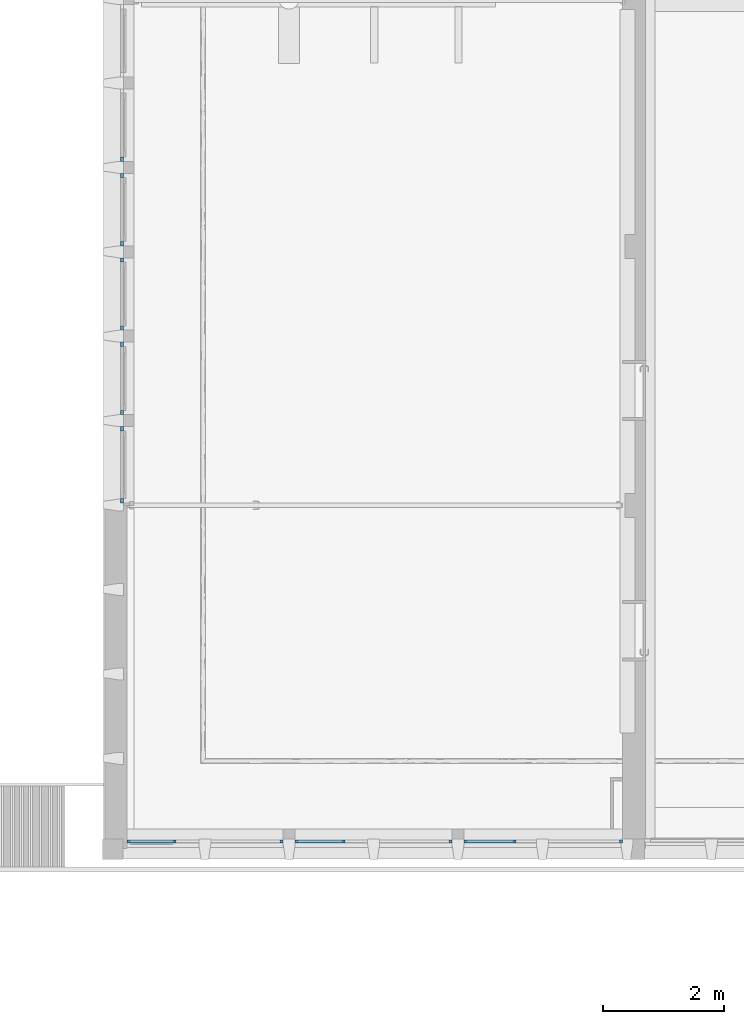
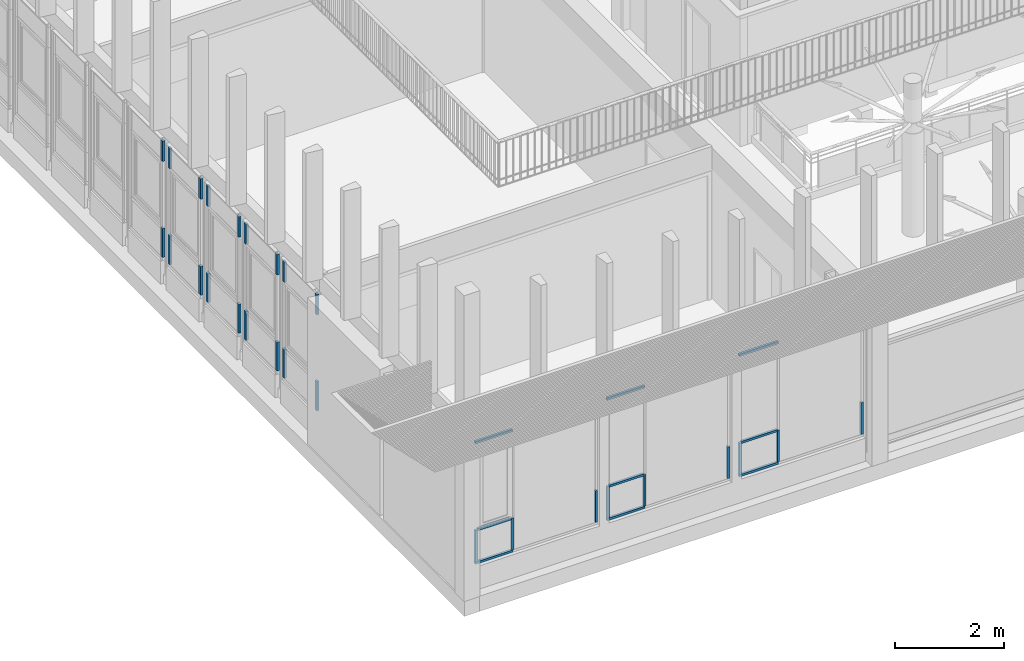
# One storey, part 11 of 65: 36 members, 8 elements without a shape of their own.
"""IFC4 building model written with IfcOpenShell, lengths in metres."""

import ifcopenshell
import ifcopenshell.guid

model = None  # the IFC model being written
_history = None  # IfcOwnerHistory: only IFC2X3 demands one
_inside = {}  # id of a spatial element -> (the spatial element, [elements in it])
_under = {}  # id of a project, library or spatial element -> (it, [spatial elements below it])
_declared = {}  # id of a project -> (the project, [libraries it declares])
_typed = {}  # id of a type object -> (the type object, [elements of that type])
_made_of = {}  # id of a material, layer set ... -> (it, [elements and type objects made of it])


def new_model(schema):
    """Start an empty IFC model of exactly this schema.

    Asked for "IFC4X3", IfcOpenShell would pick the latest addendum, in which some entities
    have other attributes; the version numbers below select the first issue.
    IFC2X3 requires an IfcOwnerHistory on every rooted entity: one is made here for all.
    """
    global model, _history
    if schema == "IFC4X3":
        model = ifcopenshell.file(schema_version=(4, 3, 0, 0))
    else:
        model = ifcopenshell.file(schema=schema)
    _inside.clear()
    _under.clear()
    _declared.clear()
    _typed.clear()
    _made_of.clear()
    _history = None
    if model.schema == "IFC2X3":
        org = make("IfcOrganization", Name="unknown")
        user = make(
            "IfcPersonAndOrganization",
            ThePerson=make("IfcPerson", FamilyName="unknown"),
            TheOrganization=org,
        )
        app = make(
            "IfcApplication",
            ApplicationDeveloper=org,
            Version="unknown",
            ApplicationFullName="unknown",
            ApplicationIdentifier="unknown",
        )
        _history = make(
            "IfcOwnerHistory",
            OwningUser=user,
            OwningApplication=app,
            ChangeAction="ADDED",
            CreationDate=0,
        )
    return model


def make(cls, **values):
    """One entity of the class cls with the attributes given. An attribute that is None is left unset."""
    return model.create_entity(
        cls, **{name: value for name, value in values.items() if value is not None}
    )


def entity(cls, *values):
    """Any entity or typed value of the class cls, its attributes in the order of the schema. None: left unset."""
    e = model.create_entity(cls)
    for i, value in enumerate(values):
        if value is not None:
            e[i] = value
    return e


def rooted(cls, **values):
    """An entity with a GlobalId (a new one), such as an element, a storey or a relation."""
    return make(cls, GlobalId=ifcopenshell.guid.new(), OwnerHistory=_history, **values)


def si_unit(unit_type, name, prefix=None):
    """IfcSIUnit, for example si_unit("LENGTHUNIT", "METRE", prefix="MILLI")."""
    return make("IfcSIUnit", UnitType=unit_type, Prefix=prefix, Name=name)


def converted_unit(unit_type, name, factor, base, dimensions=None, offset=None):
    """IfcConversionBasedUnit, such as the inch: factor (a typed value) times the base unit."""
    return make(
        "IfcConversionBasedUnit"
        if offset is None
        else "IfcConversionBasedUnitWithOffset",
        ConversionOffset=offset,
        Dimensions=None
        if dimensions is None
        else entity("IfcDimensionalExponents", *dimensions),
        UnitType=unit_type,
        Name=name,
        ConversionFactor=make(
            "IfcMeasureWithUnit", ValueComponent=factor, UnitComponent=base
        ),
    )


def derived_unit(unit_type, elements):
    """IfcDerivedUnit: a product of units, each with its exponent."""
    return make(
        "IfcDerivedUnit",
        Elements=[
            make("IfcDerivedUnitElement", Unit=unit, Exponent=power)
            for unit, power in elements
        ],
        UnitType=unit_type,
    )


def assignment(units):
    """IfcUnitAssignment: the units of a project."""
    return None if units is None else make("IfcUnitAssignment", Units=units)


def point(xyz):
    """IfcCartesianPoint."""
    return None if xyz is None else make("IfcCartesianPoint", Coordinates=xyz)


def direction(xyz):
    """IfcDirection."""
    return None if xyz is None else make("IfcDirection", DirectionRatios=xyz)


def frame(location, z_axis=None, x_axis=None):
    """IfcAxis2Placement3D, a coordinate frame: its origin and axes. An axis left out is left unset."""
    return make(
        "IfcAxis2Placement3D",
        Location=point(location),
        Axis=direction(z_axis),
        RefDirection=direction(x_axis),
    )


def origin():
    """The frame at (0, 0, 0) with its axes left unset."""
    return frame((0.0, 0.0, 0.0))


def place(relative_to, where):
    """IfcLocalPlacement: puts the frame where relative to a parent placement (None: the world)."""
    return make(
        "IfcLocalPlacement", PlacementRelTo=relative_to, RelativePlacement=where
    )


def context(
    kind, dimensions, precision=None, world=None, true_north=None, identifier=None
):
    """IfcGeometricRepresentationContext, for example the 3D "Model" context."""
    return make(
        "IfcGeometricRepresentationContext",
        ContextIdentifier=identifier,
        ContextType=kind,
        CoordinateSpaceDimension=dimensions,
        Precision=precision,
        WorldCoordinateSystem=world,
        TrueNorth=true_north,
    )


def subcontext(parent, identifier, kind, view, scale=None):
    """IfcGeometricRepresentationSubContext, for example "Body" below "Model"."""
    return make(
        "IfcGeometricRepresentationSubContext",
        ContextIdentifier=identifier,
        ContextType=kind,
        ParentContext=parent,
        TargetScale=scale,
        TargetView=view,
    )


def project(units=None, contexts=None):
    """IfcProject with its units and contexts."""
    return rooted(
        "IfcProject",
        Name="project",
        RepresentationContexts=contexts,
        UnitsInContext=assignment(units),
    )


def spatial(cls, under=None, at=None, **own):
    """A site, building, storey or space (cls), placed at a placement, below another one or the project."""
    s = rooted(cls, ObjectPlacement=at, **own)
    if under is not None:
        _under.setdefault(under.id(), (under, []))[1].append(s)
    return s


def point_list(points):
    """IfcCartesianPointList2D or 3D."""
    cls = (
        "IfcCartesianPointList2D" if len(points[0]) == 2 else "IfcCartesianPointList3D"
    )
    return make(cls, CoordList=points)


def indexed_curve(points, segments=None, self_intersect=None):
    """IfcIndexedPolyCurve: lines and arcs through numbered points (the first is 1)."""
    return make(
        "IfcIndexedPolyCurve",
        Points=point_list(points),
        Segments=segments,
        SelfIntersect=self_intersect,
    )


def outline(outer, holes=None, kind="AREA"):
    """IfcArbitraryClosedProfileDef: a profile drawn as a closed curve; with holes, ...WithVoids."""
    if holes is None:
        return make("IfcArbitraryClosedProfileDef", ProfileType=kind, OuterCurve=outer)
    return make(
        "IfcArbitraryProfileDefWithVoids",
        ProfileType=kind,
        OuterCurve=outer,
        InnerCurves=holes,
    )


def extrude(swept, where, along, depth):
    """IfcExtrudedAreaSolid: the profile swept, set in the frame where, extruded along a direction by depth."""
    return make(
        "IfcExtrudedAreaSolid",
        SweptArea=swept,
        Position=where,
        ExtrudedDirection=direction(along),
        Depth=depth,
    )


def shape(context_of_items, identifier, shape_type, items):
    """IfcShapeRepresentation: the items that make up one representation, for example the "Body"."""
    return make(
        "IfcShapeRepresentation",
        ContextOfItems=context_of_items,
        RepresentationIdentifier=identifier,
        RepresentationType=shape_type,
        Items=items,
    )


def source(mapping_origin, context_of_items, identifier, shape_type, items):
    """IfcRepresentationMap: a shape defined once, which mapped items show again and again."""
    return make(
        "IfcRepresentationMap",
        MappingOrigin=mapping_origin,
        MappedRepresentation=shape(context_of_items, identifier, shape_type, items),
    )


def transform(
    local_origin,
    x_axis=None,
    y_axis=None,
    z_axis=None,
    scale=None,
    scale2=None,
    scale3=None,
    uniform=True,
):
    """IfcCartesianTransformationOperator3D, or its non-uniform kind. x_axis, y_axis, z_axis: its Axis1, 2, 3."""
    if uniform:
        return make(
            "IfcCartesianTransformationOperator3D",
            Axis1=direction(x_axis),
            Axis2=direction(y_axis),
            LocalOrigin=point(local_origin),
            Scale=scale,
            Axis3=direction(z_axis),
        )
    return make(
        "IfcCartesianTransformationOperator3DnonUniform",
        Axis1=direction(x_axis),
        Axis2=direction(y_axis),
        LocalOrigin=point(local_origin),
        Scale=scale,
        Axis3=direction(z_axis),
        Scale2=scale2,
        Scale3=scale3,
    )


def mapped(mapping_source, mapping_target):
    """IfcMappedItem: shows the shape of a source again, moved by a transform."""
    return make(
        "IfcMappedItem", MappingSource=mapping_source, MappingTarget=mapping_target
    )


def material(Name=None, Category=None):
    """IfcMaterial."""
    return make("IfcMaterial", Name=Name, Category=Category)


def made_of(thing, what):
    """Note that an element or type object is made of a material, layer set ...; save() writes the relation."""
    if what is not None:
        _made_of.setdefault(what.id(), (what, []))[1].append(thing)
    return thing


def type_object(cls, material=None, **own):
    """A type object (cls), such as IfcWallType, which elements share."""
    return made_of(rooted(cls, **own), material)


def type_shapes(of_type, sources):
    """Give a type object the sources (RepresentationMaps) that its elements show as mapped items."""
    of_type.RepresentationMaps = sources


def element(
    cls,
    number,
    at=None,
    inside=None,
    cuts=None,
    type_object=None,
    material=None,
    context=None,
    identifier="Body",
    shape_type=None,
    held_by="IfcProductDefinitionShape",
    body=None,
    shapes=None,
    **own,
):
    """One element of the class cls, such as IfcWall. Its Tag is "e" and its number.

    at: its placement. inside: the storey or other place that contains it. cuts: it is an
    opening in that element (IfcRelVoidsElement). A single representation is given by context,
    identifier, shape_type and body (its items); several are given by shapes. held_by: the class
    of the entity that holds the representations. save() writes the other relations.
    """
    e = rooted(cls, Tag="e%d" % number, ObjectPlacement=at, **own)
    if body is not None:
        shapes = [shape(context, identifier, shape_type, body)]
    if shapes is not None:
        e.Representation = make(held_by, Representations=shapes)
    if inside is not None:
        _inside.setdefault(inside.id(), (inside, []))[1].append(e)
    if cuts is not None:
        rooted(
            "IfcRelVoidsElement", RelatingBuildingElement=cuts, RelatedOpeningElement=e
        )
    if type_object is not None:
        _typed.setdefault(type_object.id(), (type_object, []))[1].append(e)
    return made_of(e, material)


def aggregate(whole, parts):
    """IfcRelAggregates: a whole, such as a stair, and the parts it consists of."""
    return rooted("IfcRelAggregates", RelatingObject=whole, RelatedObjects=parts)


def save(model, path):
    """Write the relations noted so far, then the file.

    IfcRelAggregates (storeys below a building ...), IfcRelContainedInSpatialStructure (elements
    in a storey), IfcRelDefinesByType, IfcRelAssociatesMaterial and IfcRelDeclares: one each for
    every whole, place, type object, material and project.
    """
    for whole, parts in _under.values():
        aggregate(whole, parts)
    for where, things in _inside.values():
        rooted(
            "IfcRelContainedInSpatialStructure",
            RelatedElements=things,
            RelatingStructure=where,
        )
    for kind, things in _typed.values():
        rooted("IfcRelDefinesByType", RelatedObjects=things, RelatingType=kind)
    for what, things in _made_of.values():
        rooted("IfcRelAssociatesMaterial", RelatedObjects=things, RelatingMaterial=what)
    for by, libraries in _declared.values():
        rooted("IfcRelDeclares", RelatingContext=by, RelatedDefinitions=libraries)
    model.write(path)


model = new_model("IFC4")

# Units and contexts
model_context = context("Model", 3, precision=1e-05, world=origin(), true_north=direction((6.12303176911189e-17, 1.0)))
body_context = subcontext(model_context, "Body", "Model", "MODEL_VIEW")
ifc_project = project(units=[si_unit("LENGTHUNIT", "METRE"), si_unit("AREAUNIT", "SQUARE_METRE"), si_unit("VOLUMEUNIT", "CUBIC_METRE"), converted_unit("PLANEANGLEUNIT", "DEGREE", entity("IfcRatioMeasure", 0.0174532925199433), si_unit("PLANEANGLEUNIT", "RADIAN"), dimensions=[0, 0, 0, 0, 0, 0, 0]), si_unit("MASSUNIT", "GRAM", prefix="KILO"), derived_unit("MASSDENSITYUNIT", [(si_unit("MASSUNIT", "GRAM", prefix="KILO"), 1), (si_unit("LENGTHUNIT", "METRE"), -3)]), derived_unit("MOMENTOFINERTIAUNIT", [(si_unit("LENGTHUNIT", "METRE"), 4)]), si_unit("TIMEUNIT", "SECOND"), si_unit("FREQUENCYUNIT", "HERTZ"), si_unit("THERMODYNAMICTEMPERATUREUNIT", "DEGREE_CELSIUS"), derived_unit("THERMALTRANSMITTANCEUNIT", [(si_unit("MASSUNIT", "GRAM", prefix="KILO"), 1), (si_unit("THERMODYNAMICTEMPERATUREUNIT", "KELVIN"), -1), (si_unit("TIMEUNIT", "SECOND"), -3)]), derived_unit("VOLUMETRICFLOWRATEUNIT", [(si_unit("LENGTHUNIT", "METRE"), 3), (si_unit("TIMEUNIT", "SECOND"), -1)]), si_unit("ELECTRICCURRENTUNIT", "AMPERE"), si_unit("ELECTRICVOLTAGEUNIT", "VOLT"), si_unit("POWERUNIT", "WATT"), si_unit("FORCEUNIT", "NEWTON", prefix="KILO"), si_unit("ILLUMINANCEUNIT", "LUX"), si_unit("LUMINOUSFLUXUNIT", "LUMEN"), si_unit("LUMINOUSINTENSITYUNIT", "CANDELA"), derived_unit("USERDEFINED", [(si_unit("MASSUNIT", "GRAM", prefix="KILO"), -1), (si_unit("LENGTHUNIT", "METRE"), -2), (si_unit("TIMEUNIT", "SECOND"), 3), (si_unit("LUMINOUSFLUXUNIT", "LUMEN"), 1)]), derived_unit("LINEARVELOCITYUNIT", [(si_unit("LENGTHUNIT", "METRE"), 1), (si_unit("TIMEUNIT", "SECOND"), -1)]), si_unit("PRESSUREUNIT", "PASCAL"), derived_unit("USERDEFINED", [(si_unit("LENGTHUNIT", "METRE"), -2), (si_unit("MASSUNIT", "GRAM", prefix="KILO"), 1), (si_unit("TIMEUNIT", "SECOND"), -2)]), derived_unit("LINEARFORCEUNIT", [(si_unit("MASSUNIT", "GRAM", prefix="KILO"), 1), (si_unit("LENGTHUNIT", "METRE"), 1), (si_unit("TIMEUNIT", "SECOND"), -2), (si_unit("LENGTHUNIT", "METRE"), -1)]), derived_unit("PLANARFORCEUNIT", [(si_unit("MASSUNIT", "GRAM", prefix="KILO"), 1), (si_unit("LENGTHUNIT", "METRE"), 1), (si_unit("TIMEUNIT", "SECOND"), -2), (si_unit("LENGTHUNIT", "METRE"), -2)])], contexts=[model_context])

# Site, building, storey
site_placement = place(None, origin())
site = spatial("IfcSite", under=ifc_project, at=site_placement, Name="Default", CompositionType="ELEMENT")
building_placement = place(site_placement, origin())
building = spatial("IfcBuilding", under=site, at=building_placement, Name="HOTEL CONSULAIRE BOULOGNE SUR MER", CompositionType="ELEMENT")
storey_placement = place(building_placement, origin())
storey = spatial("IfcBuildingStorey", under=building, at=storey_placement, Name="Niveau 0", CompositionType="ELEMENT", Elevation=1.31981936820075e-13)

# Curtain wall, member
curtain_wall_type = type_object("IfcCurtainWallType", Name="Mur-rideau:Simple panneau", PredefinedType="NOTDEFINED")
curtain_wall_1_placement = place(storey_placement, origin())
curtain_wall_1 = element("IfcCurtainWall", 1, at=curtain_wall_1_placement, inside=storey, type_object=curtain_wall_type, Name="Mur-rideau:Simple panneau", ObjectType="Mur-rideau:Simple panneau", PredefinedType="NOTDEFINED")
ifc_material = material(Name="PVC - Blanc", Category="Plastique")
member_type_1 = type_object("IfcMemberType", Name="Meneau rectangulaire:50 x 35", PredefinedType="MULLION", material=ifc_material)
shared_shape_1 = source(origin(), body_context, "Body", "SweptSolid", [
    extrude(outline(indexed_curve([(-0.025, -0.035), (0.025, -0.035), (0.025, 0.035), (-0.025, 0.035), (-0.025, -0.035)], self_intersect=False)), frame((-0.035, -0.025, -0.458999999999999), z_axis=(0.0, 0.0, 1.0), x_axis=(0.0, -1.0, 0.0)), (0.0, 0.0, 1.0), 0.458999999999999),
])
type_shapes(member_type_1, [shared_shape_1])
member_1_placement = place(storey_placement, frame((-13.7900998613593, -23.9750508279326, 2.96999999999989), z_axis=(0.0, 0.0, 1.0), x_axis=(0.0, -1.0, 0.0)))
member_1 = element("IfcMember", 2, at=member_1_placement, type_object=member_type_1, material=ifc_material, Name="Meneau rectangulaire:50 x 35", ObjectType="Meneau rectangulaire:50 x 35", PredefinedType="MULLION", context=body_context, shape_type="MappedRepresentation", body=[
    mapped(shared_shape_1, transform((0.0, 0.0, 0.0), scale=1.0)),
])

curtain_wall_2_placement = place(storey_placement, origin())
curtain_wall_2 = element("IfcCurtainWall", 3, at=curtain_wall_2_placement, inside=storey, type_object=curtain_wall_type, Name="Mur-rideau:Simple panneau", ObjectType="Mur-rideau:Simple panneau", PredefinedType="NOTDEFINED")
member_2_placement = place(storey_placement, frame((-13.7900998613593, -22.5114499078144, 2.96999999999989), z_axis=(0.0, 0.0, 1.0), x_axis=(0.0, -1.0, 0.0)))
member_2 = element("IfcMember", 4, at=member_2_placement, type_object=member_type_1, material=ifc_material, Name="Meneau rectangulaire:50 x 35", ObjectType="Meneau rectangulaire:50 x 35", PredefinedType="MULLION", context=body_context, shape_type="MappedRepresentation", body=[
    mapped(shared_shape_1, transform((0.0, 0.0, 0.0), scale=1.0)),
])

curtain_wall_3_placement = place(storey_placement, origin())
curtain_wall_3 = element("IfcCurtainWall", 5, at=curtain_wall_3_placement, inside=storey, type_object=curtain_wall_type, Name="Mur-rideau:Simple panneau", ObjectType="Mur-rideau:Simple panneau", PredefinedType="NOTDEFINED")
member_3_placement = place(storey_placement, frame((-13.7900998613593, -21.1114499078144, 2.96999999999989), z_axis=(0.0, 0.0, 1.0), x_axis=(0.0, -1.0, 0.0)))
member_3 = element("IfcMember", 6, at=member_3_placement, type_object=member_type_1, material=ifc_material, Name="Meneau rectangulaire:50 x 35", ObjectType="Meneau rectangulaire:50 x 35", PredefinedType="MULLION", context=body_context, shape_type="MappedRepresentation", body=[
    mapped(shared_shape_1, transform((0.0, 0.0, 0.0), scale=1.0)),
])

curtain_wall_4_placement = place(storey_placement, origin())
curtain_wall_4 = element("IfcCurtainWall", 7, at=curtain_wall_4_placement, inside=storey, type_object=curtain_wall_type, Name="Mur-rideau:Simple panneau", ObjectType="Mur-rideau:Simple panneau", PredefinedType="NOTDEFINED")
member_4_placement = place(storey_placement, frame((-13.7900998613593, -19.7114499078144, 2.96999999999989), z_axis=(0.0, 0.0, 1.0), x_axis=(0.0, -1.0, 0.0)))
member_4 = element("IfcMember", 8, at=member_4_placement, type_object=member_type_1, material=ifc_material, Name="Meneau rectangulaire:50 x 35", ObjectType="Meneau rectangulaire:50 x 35", PredefinedType="MULLION", context=body_context, shape_type="MappedRepresentation", body=[
    mapped(shared_shape_1, transform((0.0, 0.0, 0.0), scale=1.0)),
])

curtain_wall_5_placement = place(storey_placement, origin())
curtain_wall_5 = element("IfcCurtainWall", 9, at=curtain_wall_5_placement, inside=storey, type_object=curtain_wall_type, Name="Mur-rideau:Simple panneau", ObjectType="Mur-rideau:Simple panneau", PredefinedType="NOTDEFINED")
member_5_placement = place(storey_placement, frame((-13.7900998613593, -18.3114499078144, 2.96999999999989), z_axis=(0.0, 0.0, 1.0), x_axis=(0.0, -1.0, 0.0)))
member_5 = element("IfcMember", 10, at=member_5_placement, type_object=member_type_1, material=ifc_material, Name="Meneau rectangulaire:50 x 35", ObjectType="Meneau rectangulaire:50 x 35", PredefinedType="MULLION", context=body_context, shape_type="MappedRepresentation", body=[
    mapped(shared_shape_1, transform((0.0, 0.0, 0.0), scale=1.0)),
])

# Member
member_type_2 = type_object("IfcMemberType", Name="Meneau rectangulaire:50 x 35", PredefinedType="MULLION", material=ifc_material)
shared_shape_2 = source(origin(), body_context, "Body", "SweptSolid", [
    extrude(outline(indexed_curve([(-0.025, -0.035), (0.025, -0.035), (0.025, 0.035), (-0.025, 0.035), (-0.025, -0.035)], self_intersect=False)), frame((-0.035, -0.025, -0.647), z_axis=(0.0, 0.0, 1.0), x_axis=(0.0, -1.0, 0.0)), (0.0, 0.0, 1.0), 0.647),
])
type_shapes(member_type_2, [shared_shape_2])
member_6_placement = place(storey_placement, frame((-13.7900998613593, -22.7114499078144, 0.359999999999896), z_axis=(0.0, 0.0, -1.0), x_axis=(0.0, 1.0, 0.0)))
member_6 = element("IfcMember", 11, at=member_6_placement, type_object=member_type_2, material=ifc_material, Name="Meneau rectangulaire:50 x 35", ObjectType="Meneau rectangulaire:50 x 35", PredefinedType="MULLION", context=body_context, shape_type="MappedRepresentation", body=[
    mapped(shared_shape_2, transform((0.0, 0.0, 0.0), scale=1.0)),
])

member_7_placement = place(storey_placement, frame((-13.7900998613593, -21.3114499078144, 0.359999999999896), z_axis=(0.0, 0.0, -1.0), x_axis=(0.0, 1.0, 0.0)))
member_7 = element("IfcMember", 12, at=member_7_placement, type_object=member_type_2, material=ifc_material, Name="Meneau rectangulaire:50 x 35", ObjectType="Meneau rectangulaire:50 x 35", PredefinedType="MULLION", context=body_context, shape_type="MappedRepresentation", body=[
    mapped(shared_shape_2, transform((0.0, 0.0, 0.0), scale=1.0)),
])

member_8_placement = place(storey_placement, frame((-13.7900998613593, -19.9114499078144, 0.359999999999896), z_axis=(0.0, 0.0, -1.0), x_axis=(0.0, 1.0, 0.0)))
member_8 = element("IfcMember", 13, at=member_8_placement, type_object=member_type_2, material=ifc_material, Name="Meneau rectangulaire:50 x 35", ObjectType="Meneau rectangulaire:50 x 35", PredefinedType="MULLION", context=body_context, shape_type="MappedRepresentation", body=[
    mapped(shared_shape_2, transform((0.0, 0.0, 0.0), scale=1.0)),
])

member_9_placement = place(storey_placement, frame((-13.7900998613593, -18.5114499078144, 0.359999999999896), z_axis=(0.0, 0.0, -1.0), x_axis=(0.0, 1.0, 0.0)))
member_9 = element("IfcMember", 14, at=member_9_placement, type_object=member_type_2, material=ifc_material, Name="Meneau rectangulaire:50 x 35", ObjectType="Meneau rectangulaire:50 x 35", PredefinedType="MULLION", context=body_context, shape_type="MappedRepresentation", body=[
    mapped(shared_shape_2, transform((0.0, 0.0, 0.0), scale=1.0)),
])

member_type_3 = type_object("IfcMemberType", Name="Meneau rectangulaire:50 x 35", PredefinedType="MULLION", material=ifc_material)
shared_shape_3 = source(origin(), body_context, "Body", "SweptSolid", [
    extrude(outline(indexed_curve([(-0.025, -0.035), (0.025, -0.035), (0.025, 0.035), (-0.025, 0.035), (-0.025, -0.035)], self_intersect=False)), frame((-0.035, -0.025, -0.458999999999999), z_axis=(0.0, 0.0, 1.0), x_axis=(0.0, -1.0, 0.0)), (0.0, 0.0, 1.0), 0.458999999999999),
])
type_shapes(member_type_3, [shared_shape_3])
member_10_placement = place(storey_placement, frame((-13.7900998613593, -22.7114499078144, 2.5109999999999), z_axis=(0.0, 0.0, -1.0), x_axis=(0.0, 1.0, 0.0)))
member_10 = element("IfcMember", 15, at=member_10_placement, type_object=member_type_3, material=ifc_material, Name="Meneau rectangulaire:50 x 35", ObjectType="Meneau rectangulaire:50 x 35", PredefinedType="MULLION", context=body_context, shape_type="MappedRepresentation", body=[
    mapped(shared_shape_3, transform((0.0, 0.0, 0.0), scale=1.0)),
])

member_11_placement = place(storey_placement, frame((-13.7900998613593, -21.3114499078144, 2.5109999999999), z_axis=(0.0, 0.0, -1.0), x_axis=(0.0, 1.0, 0.0)))
member_11 = element("IfcMember", 16, at=member_11_placement, type_object=member_type_3, material=ifc_material, Name="Meneau rectangulaire:50 x 35", ObjectType="Meneau rectangulaire:50 x 35", PredefinedType="MULLION", context=body_context, shape_type="MappedRepresentation", body=[
    mapped(shared_shape_3, transform((0.0, 0.0, 0.0), scale=1.0)),
])

member_12_placement = place(storey_placement, frame((-13.7900998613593, -19.9114499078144, 2.5109999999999), z_axis=(0.0, 0.0, -1.0), x_axis=(0.0, 1.0, 0.0)))
member_12 = element("IfcMember", 17, at=member_12_placement, type_object=member_type_3, material=ifc_material, Name="Meneau rectangulaire:50 x 35", ObjectType="Meneau rectangulaire:50 x 35", PredefinedType="MULLION", context=body_context, shape_type="MappedRepresentation", body=[
    mapped(shared_shape_3, transform((0.0, 0.0, 0.0), scale=1.0)),
])

member_13_placement = place(storey_placement, frame((-13.7900998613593, -18.5114499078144, 2.5109999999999), z_axis=(0.0, 0.0, -1.0), x_axis=(0.0, 1.0, 0.0)))
member_13 = element("IfcMember", 18, at=member_13_placement, type_object=member_type_3, material=ifc_material, Name="Meneau rectangulaire:50 x 35", ObjectType="Meneau rectangulaire:50 x 35", PredefinedType="MULLION", context=body_context, shape_type="MappedRepresentation", body=[
    mapped(shared_shape_3, transform((0.0, 0.0, 0.0), scale=1.0)),
])

member_type_4 = type_object("IfcMemberType", Name="Meneau rectangulaire:50 x 35", PredefinedType="MULLION", material=ifc_material)
shared_shape_4 = source(origin(), body_context, "Body", "SweptSolid", [
    extrude(outline(indexed_curve([(-0.025, -0.035), (0.025, -0.035), (0.025, 0.035), (-0.025, 0.035), (-0.025, -0.035)], self_intersect=False)), frame((-0.035, -0.025, -0.647), z_axis=(0.0, 0.0, 1.0), x_axis=(0.0, -1.0, 0.0)), (0.0, 0.0, 1.0), 0.647),
])
type_shapes(member_type_4, [shared_shape_4])
member_14_placement = place(storey_placement, frame((-13.7900998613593, -23.9750508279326, 1.0069999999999), z_axis=(0.0, 0.0, 1.0), x_axis=(0.0, -1.0, 0.0)))
member_14 = element("IfcMember", 19, at=member_14_placement, type_object=member_type_4, material=ifc_material, Name="Meneau rectangulaire:50 x 35", ObjectType="Meneau rectangulaire:50 x 35", PredefinedType="MULLION", context=body_context, shape_type="MappedRepresentation", body=[
    mapped(shared_shape_4, transform((0.0, 0.0, 0.0), scale=1.0)),
])

aggregate(curtain_wall_1, [member_1, member_6, member_10, member_14])

member_15_placement = place(storey_placement, frame((-13.7900998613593, -22.5114499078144, 1.0069999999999), z_axis=(0.0, 0.0, 1.0), x_axis=(0.0, -1.0, 0.0)))
member_15 = element("IfcMember", 20, at=member_15_placement, type_object=member_type_4, material=ifc_material, Name="Meneau rectangulaire:50 x 35", ObjectType="Meneau rectangulaire:50 x 35", PredefinedType="MULLION", context=body_context, shape_type="MappedRepresentation", body=[
    mapped(shared_shape_4, transform((0.0, 0.0, 0.0), scale=1.0)),
])

aggregate(curtain_wall_2, [member_2, member_7, member_11, member_15])

member_16_placement = place(storey_placement, frame((-13.7900998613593, -21.1114499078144, 1.0069999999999), z_axis=(0.0, 0.0, 1.0), x_axis=(0.0, -1.0, 0.0)))
member_16 = element("IfcMember", 21, at=member_16_placement, type_object=member_type_4, material=ifc_material, Name="Meneau rectangulaire:50 x 35", ObjectType="Meneau rectangulaire:50 x 35", PredefinedType="MULLION", context=body_context, shape_type="MappedRepresentation", body=[
    mapped(shared_shape_4, transform((0.0, 0.0, 0.0), scale=1.0)),
])

aggregate(curtain_wall_3, [member_3, member_8, member_12, member_16])

member_17_placement = place(storey_placement, frame((-13.7900998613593, -19.7114499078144, 1.0069999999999), z_axis=(0.0, 0.0, 1.0), x_axis=(0.0, -1.0, 0.0)))
member_17 = element("IfcMember", 22, at=member_17_placement, type_object=member_type_4, material=ifc_material, Name="Meneau rectangulaire:50 x 35", ObjectType="Meneau rectangulaire:50 x 35", PredefinedType="MULLION", context=body_context, shape_type="MappedRepresentation", body=[
    mapped(shared_shape_4, transform((0.0, 0.0, 0.0), scale=1.0)),
])

aggregate(curtain_wall_4, [member_4, member_9, member_13, member_17])

member_18_placement = place(storey_placement, frame((-13.7900998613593, -18.3114499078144, 1.0069999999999), z_axis=(0.0, 0.0, 1.0), x_axis=(0.0, -1.0, 0.0)))
member_18 = element("IfcMember", 23, at=member_18_placement, type_object=member_type_4, material=ifc_material, Name="Meneau rectangulaire:50 x 35", ObjectType="Meneau rectangulaire:50 x 35", PredefinedType="MULLION", context=body_context, shape_type="MappedRepresentation", body=[
    mapped(shared_shape_4, transform((0.0, 0.0, 0.0), scale=1.0)),
])

aggregate(curtain_wall_5, [member_5, member_18])

# Curtain wall, member
curtain_wall_6_placement = place(storey_placement, origin())
curtain_wall_6 = element("IfcCurtainWall", 24, at=curtain_wall_6_placement, inside=storey, type_object=curtain_wall_type, Name="Mur-rideau:Simple panneau", ObjectType="Mur-rideau:Simple panneau", PredefinedType="NOTDEFINED")
member_type_5 = type_object("IfcMemberType", Name="Meneau rectangulaire:50 x 25mm", PredefinedType="MULLION", material=ifc_material)
shared_shape_5 = source(origin(), body_context, "Body", "SweptSolid", [
    extrude(outline(indexed_curve([(-0.025, -0.025), (0.025, -0.025), (0.025, 0.025), (-0.025, 0.025), (-0.025, -0.025)], self_intersect=False)), frame((-0.025, -0.025, -0.709), z_axis=(0.0, 0.0, 1.0), x_axis=(0.0, -1.0, 0.0)), (0.0, 0.0, 1.0), 0.709),
])
type_shapes(member_type_5, [shared_shape_5])
member_19_placement = place(storey_placement, frame((-11.1414199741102, -29.6140671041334, 0.349999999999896), z_axis=(0.0, 0.0, -1.0), x_axis=(1.0, 0.0, 0.0)))
member_19 = element("IfcMember", 25, at=member_19_placement, type_object=member_type_5, material=ifc_material, Name="Meneau rectangulaire:50 x 25mm", ObjectType="Meneau rectangulaire:50 x 25mm", PredefinedType="MULLION", context=body_context, shape_type="MappedRepresentation", body=[
    mapped(shared_shape_5, transform((0.0, 0.0, 0.0), scale=1.0)),
])

curtain_wall_7_placement = place(storey_placement, origin())
curtain_wall_7 = element("IfcCurtainWall", 26, at=curtain_wall_7_placement, inside=storey, type_object=curtain_wall_type, Name="Mur-rideau:Simple panneau", ObjectType="Mur-rideau:Simple panneau", PredefinedType="NOTDEFINED")
member_20_placement = place(storey_placement, frame((-5.50977317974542, -29.6140671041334, 0.349999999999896), z_axis=(0.0, 0.0, -1.0), x_axis=(1.0, 0.0, 0.0)))
member_20 = element("IfcMember", 27, at=member_20_placement, type_object=member_type_5, material=ifc_material, Name="Meneau rectangulaire:50 x 25mm", ObjectType="Meneau rectangulaire:50 x 25mm", PredefinedType="MULLION", context=body_context, shape_type="MappedRepresentation", body=[
    mapped(shared_shape_5, transform((0.0, 0.0, 0.0), scale=1.0)),
])

curtain_wall_8_placement = place(storey_placement, origin())
curtain_wall_8 = element("IfcCurtainWall", 28, at=curtain_wall_8_placement, inside=storey, type_object=curtain_wall_type, Name="Mur-rideau:Simple panneau", ObjectType="Mur-rideau:Simple panneau", PredefinedType="NOTDEFINED")
member_21_placement = place(storey_placement, frame((-8.3414199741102, -29.6140671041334, 0.349999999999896), z_axis=(0.0, 0.0, -1.0), x_axis=(1.0, 0.0, 0.0)))
member_21 = element("IfcMember", 29, at=member_21_placement, type_object=member_type_5, material=ifc_material, Name="Meneau rectangulaire:50 x 25mm", ObjectType="Meneau rectangulaire:50 x 25mm", PredefinedType="MULLION", context=body_context, shape_type="MappedRepresentation", body=[
    mapped(shared_shape_5, transform((0.0, 0.0, 0.0), scale=1.0)),
])

# Member
member_type_6 = type_object("IfcMemberType", Name="Meneau rectangulaire:50 x 25mm", PredefinedType="MULLION", material=ifc_material)
shared_shape_6 = source(origin(), body_context, "Body", "SweptSolid", [
    extrude(outline(indexed_curve([(-0.025, -0.025), (0.025, -0.025), (0.025, 0.025), (-0.025, 0.025), (-0.025, -0.025)], self_intersect=False)), frame((-0.025, -0.025, -0.789369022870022), z_axis=(0.0, 0.0, 1.0), x_axis=(0.0, -1.0, 0.0)), (0.0, 0.0, 1.0), 0.789369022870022),
])
type_shapes(member_type_6, [shared_shape_6])
member_22_placement = place(storey_placement, frame((-13.7293496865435, -29.6140671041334, 0.299999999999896), z_axis=(-1.0, 0.0, 0.0), x_axis=(0.0, 0.0, -1.0)))
member_22 = element("IfcMember", 30, at=member_22_placement, type_object=member_type_6, material=ifc_material, Name="Meneau rectangulaire:50 x 25mm", ObjectType="Meneau rectangulaire:50 x 25mm", PredefinedType="MULLION", context=body_context, shape_type="MappedRepresentation", body=[
    mapped(shared_shape_6, transform((0.0, 0.0, 0.0), scale=1.0)),
])

member_type_7 = type_object("IfcMemberType", Name="Meneau rectangulaire:50 x 25mm", PredefinedType="MULLION", material=ifc_material)
shared_shape_7 = source(origin(), body_context, "Body", "SweptSolid", [
    extrude(outline(indexed_curve([(-0.025, -0.025), (0.025, -0.025), (0.025, 0.025), (-0.025, 0.025), (-0.025, -0.025)], self_intersect=False)), frame((0.0, -0.025, -0.709), z_axis=(0.0, 0.0, 1.0), x_axis=(0.0, -1.0, 0.0)), (0.0, 0.0, 1.0), 0.709),
])
type_shapes(member_type_7, [shared_shape_7])
member_23_placement = place(storey_placement, frame((-12.9399806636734, -29.6140671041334, 0.349999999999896), z_axis=(0.0, 0.0, -1.0), x_axis=(1.0, 0.0, 0.0)))
member_23 = element("IfcMember", 31, at=member_23_placement, type_object=member_type_7, material=ifc_material, Name="Meneau rectangulaire:50 x 25mm", ObjectType="Meneau rectangulaire:50 x 25mm", PredefinedType="MULLION", context=body_context, shape_type="MappedRepresentation", body=[
    mapped(shared_shape_7, transform((0.0, 0.0, 0.0), scale=1.0)),
])

member_24_placement = place(storey_placement, frame((-7.30833386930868, -29.6140671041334, 0.349999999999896), z_axis=(0.0, 0.0, -1.0), x_axis=(1.0, 0.0, 0.0)))
member_24 = element("IfcMember", 32, at=member_24_placement, type_object=member_type_7, material=ifc_material, Name="Meneau rectangulaire:50 x 25mm", ObjectType="Meneau rectangulaire:50 x 25mm", PredefinedType="MULLION", context=body_context, shape_type="MappedRepresentation", body=[
    mapped(shared_shape_7, transform((0.0, 0.0, 0.0), scale=1.0)),
])

member_25_placement = place(storey_placement, frame((-10.1399806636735, -29.6140671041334, 0.349999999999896), z_axis=(0.0, 0.0, -1.0), x_axis=(1.0, 0.0, 0.0)))
member_25 = element("IfcMember", 33, at=member_25_placement, type_object=member_type_7, material=ifc_material, Name="Meneau rectangulaire:50 x 25mm", ObjectType="Meneau rectangulaire:50 x 25mm", PredefinedType="MULLION", context=body_context, shape_type="MappedRepresentation", body=[
    mapped(shared_shape_7, transform((0.0, 0.0, 0.0), scale=1.0)),
])

member_type_8 = type_object("IfcMemberType", Name="Meneau rectangulaire:50 x 25mm", PredefinedType="MULLION", material=ifc_material)
shared_shape_8 = source(origin(), body_context, "Body", "SweptSolid", [
    extrude(outline(indexed_curve([(-0.025, -0.025), (0.025, -0.025), (0.025, 0.025), (-0.025, 0.025), (-0.025, -0.025)], self_intersect=False)), frame((0.0, -0.025, -0.714369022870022), z_axis=(0.0, 0.0, 1.0), x_axis=(0.0, -1.0, 0.0)), (0.0, 0.0, 1.0), 0.714369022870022),
])
type_shapes(member_type_8, [shared_shape_8])
member_26_placement = place(storey_placement, frame((-12.9649806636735, -29.6140671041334, 1.0589999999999), z_axis=(1.0, 0.0, 0.0), x_axis=(0.0, 0.0, 1.0)))
member_26 = element("IfcMember", 34, at=member_26_placement, type_object=member_type_8, material=ifc_material, Name="Meneau rectangulaire:50 x 25mm", ObjectType="Meneau rectangulaire:50 x 25mm", PredefinedType="MULLION", context=body_context, shape_type="MappedRepresentation", body=[
    mapped(shared_shape_8, transform((0.0, 0.0, 0.0), scale=1.0)),
])

member_type_9 = type_object("IfcMemberType", Name="Meneau rectangulaire:50 x 25mm", PredefinedType="MULLION", material=ifc_material)
shared_shape_9 = source(origin(), body_context, "Body", "SweptSolid", [
    extrude(outline(indexed_curve([(-0.025, -0.025), (0.025, -0.025), (0.025, 0.025), (-0.025, 0.025), (-0.025, -0.025)], self_intersect=False)), frame((-0.025, -0.025, -0.78936902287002), z_axis=(0.0, 0.0, 1.0), x_axis=(0.0, -1.0, 0.0)), (0.0, 0.0, 1.0), 0.78936902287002),
])
type_shapes(member_type_9, [shared_shape_9])
member_27_placement = place(storey_placement, frame((-12.9399806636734, -29.6140671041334, 3.0499999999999), z_axis=(1.0, 0.0, 0.0), x_axis=(0.0, 0.0, 1.0)))
member_27 = element("IfcMember", 35, at=member_27_placement, type_object=member_type_9, material=ifc_material, Name="Meneau rectangulaire:50 x 25mm", ObjectType="Meneau rectangulaire:50 x 25mm", PredefinedType="MULLION", context=body_context, shape_type="MappedRepresentation", body=[
    mapped(shared_shape_9, transform((0.0, 0.0, 0.0), scale=1.0)),
])

member_type_10 = type_object("IfcMemberType", Name="Meneau rectangulaire:50 x 25mm", PredefinedType="MULLION", material=ifc_material)
shared_shape_10 = source(origin(), body_context, "Body", "SweptSolid", [
    extrude(outline(indexed_curve([(-0.025, -0.025), (0.025, -0.025), (0.025, 0.025), (-0.025, 0.025), (-0.025, -0.025)], self_intersect=False)), frame((-0.025, -0.025, -0.709), z_axis=(0.0, 0.0, 1.0), x_axis=(0.0, -1.0, 0.0)), (0.0, 0.0, 1.0), 0.709),
])
type_shapes(member_type_10, [shared_shape_10])
member_28_placement = place(storey_placement, frame((-13.7293496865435, -29.6140671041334, 1.0589999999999), z_axis=(0.0, 0.0, 1.0), x_axis=(-1.0, 0.0, 0.0)))
member_28 = element("IfcMember", 36, at=member_28_placement, type_object=member_type_10, material=ifc_material, Name="Meneau rectangulaire:50 x 25mm", ObjectType="Meneau rectangulaire:50 x 25mm", PredefinedType="MULLION", context=body_context, shape_type="MappedRepresentation", body=[
    mapped(shared_shape_10, transform((0.0, 0.0, 0.0), scale=1.0)),
])

aggregate(curtain_wall_6, [member_19, member_22, member_23, member_26, member_27, member_28])

member_29_placement = place(storey_placement, frame((-8.1414199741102, -29.6140671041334, 1.0589999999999), z_axis=(0.0, 0.0, 1.0), x_axis=(-1.0, 0.0, 0.0)))
member_29 = element("IfcMember", 37, at=member_29_placement, type_object=member_type_10, material=ifc_material, Name="Meneau rectangulaire:50 x 25mm", ObjectType="Meneau rectangulaire:50 x 25mm", PredefinedType="MULLION", context=body_context, shape_type="MappedRepresentation", body=[
    mapped(shared_shape_10, transform((0.0, 0.0, 0.0), scale=1.0)),
])

member_30_placement = place(storey_placement, frame((-10.9414199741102, -29.6140671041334, 1.0589999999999), z_axis=(0.0, 0.0, 1.0), x_axis=(-1.0, 0.0, 0.0)))
member_30 = element("IfcMember", 38, at=member_30_placement, type_object=member_type_10, material=ifc_material, Name="Meneau rectangulaire:50 x 25mm", ObjectType="Meneau rectangulaire:50 x 25mm", PredefinedType="MULLION", context=body_context, shape_type="MappedRepresentation", body=[
    mapped(shared_shape_10, transform((0.0, 0.0, 0.0), scale=1.0)),
])

member_type_11 = type_object("IfcMemberType", Name="Meneau rectangulaire:50 x 25mm", PredefinedType="MULLION", material=ifc_material)
shared_shape_11 = source(origin(), body_context, "Body", "SweptSolid", [
    extrude(outline(indexed_curve([(-0.025, -0.025), (0.025, -0.025), (0.025, 0.025), (-0.025, 0.025), (-0.025, -0.025)], self_intersect=False)), frame((-0.025, -0.025, -0.833086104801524), z_axis=(0.0, 0.0, 1.0), x_axis=(0.0, -1.0, 0.0)), (0.0, 0.0, 1.0), 0.833086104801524),
])
type_shapes(member_type_11, [shared_shape_11])
member_31_placement = place(storey_placement, frame((-8.1414199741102, -29.6140671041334, 0.299999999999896), z_axis=(-1.0, 0.0, 0.0), x_axis=(0.0, 0.0, -1.0)))
member_31 = element("IfcMember", 39, at=member_31_placement, type_object=member_type_11, material=ifc_material, Name="Meneau rectangulaire:50 x 25mm", ObjectType="Meneau rectangulaire:50 x 25mm", PredefinedType="MULLION", context=body_context, shape_type="MappedRepresentation", body=[
    mapped(shared_shape_11, transform((0.0, 0.0, 0.0), scale=1.0)),
])

member_type_12 = type_object("IfcMemberType", Name="Meneau rectangulaire:50 x 25mm", PredefinedType="MULLION", material=ifc_material)
shared_shape_12 = source(origin(), body_context, "Body", "SweptSolid", [
    extrude(outline(indexed_curve([(-0.025, -0.025), (0.025, -0.025), (0.025, 0.025), (-0.025, 0.025), (-0.025, -0.025)], self_intersect=False)), frame((0.0, -0.025, -0.758086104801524), z_axis=(0.0, 0.0, 1.0), x_axis=(0.0, -1.0, 0.0)), (0.0, 0.0, 1.0), 0.758086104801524),
])
type_shapes(member_type_12, [shared_shape_12])
member_32_placement = place(storey_placement, frame((-7.33333386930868, -29.6140671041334, 1.0589999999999), z_axis=(1.0, 0.0, 0.0), x_axis=(0.0, 0.0, 1.0)))
member_32 = element("IfcMember", 40, at=member_32_placement, type_object=member_type_12, material=ifc_material, Name="Meneau rectangulaire:50 x 25mm", ObjectType="Meneau rectangulaire:50 x 25mm", PredefinedType="MULLION", context=body_context, shape_type="MappedRepresentation", body=[
    mapped(shared_shape_12, transform((0.0, 0.0, 0.0), scale=1.0)),
])

member_type_13 = type_object("IfcMemberType", Name="Meneau rectangulaire:50 x 25mm", PredefinedType="MULLION", material=ifc_material)
shared_shape_13 = source(origin(), body_context, "Body", "SweptSolid", [
    extrude(outline(indexed_curve([(-0.025, -0.025), (0.025, -0.025), (0.025, 0.025), (-0.025, 0.025), (-0.025, -0.025)], self_intersect=False)), frame((-0.025, -0.025, -0.833086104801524), z_axis=(0.0, 0.0, 1.0), x_axis=(0.0, -1.0, 0.0)), (0.0, 0.0, 1.0), 0.833086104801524),
])
type_shapes(member_type_13, [shared_shape_13])
member_33_placement = place(storey_placement, frame((-7.30833386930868, -29.6140671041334, 3.0499999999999), z_axis=(1.0, 0.0, 0.0), x_axis=(0.0, 0.0, 1.0)))
member_33 = element("IfcMember", 41, at=member_33_placement, type_object=member_type_13, material=ifc_material, Name="Meneau rectangulaire:50 x 25mm", ObjectType="Meneau rectangulaire:50 x 25mm", PredefinedType="MULLION", context=body_context, shape_type="MappedRepresentation", body=[
    mapped(shared_shape_13, transform((0.0, 0.0, 0.0), scale=1.0)),
])

aggregate(curtain_wall_7, [member_20, member_31, member_24, member_32, member_33, member_29])

member_type_14 = type_object("IfcMemberType", Name="Meneau rectangulaire:50 x 25mm", PredefinedType="MULLION", material=ifc_material)
shared_shape_14 = source(origin(), body_context, "Body", "SweptSolid", [
    extrude(outline(indexed_curve([(-0.025, -0.025), (0.025, -0.025), (0.025, 0.025), (-0.025, 0.025), (-0.025, -0.025)], self_intersect=False)), frame((-0.025, -0.025, -0.801439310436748), z_axis=(0.0, 0.0, 1.0), x_axis=(0.0, -1.0, 0.0)), (0.0, 0.0, 1.0), 0.801439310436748),
])
type_shapes(member_type_14, [shared_shape_14])
member_34_placement = place(storey_placement, frame((-10.9414199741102, -29.6140671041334, 0.299999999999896), z_axis=(-1.0, 0.0, 0.0), x_axis=(0.0, 0.0, -1.0)))
member_34 = element("IfcMember", 42, at=member_34_placement, type_object=member_type_14, material=ifc_material, Name="Meneau rectangulaire:50 x 25mm", ObjectType="Meneau rectangulaire:50 x 25mm", PredefinedType="MULLION", context=body_context, shape_type="MappedRepresentation", body=[
    mapped(shared_shape_14, transform((0.0, 0.0, 0.0), scale=1.0)),
])

member_type_15 = type_object("IfcMemberType", Name="Meneau rectangulaire:50 x 25mm", PredefinedType="MULLION", material=ifc_material)
shared_shape_15 = source(origin(), body_context, "Body", "SweptSolid", [
    extrude(outline(indexed_curve([(-0.025, -0.025), (0.025, -0.025), (0.025, 0.025), (-0.025, 0.025), (-0.025, -0.025)], self_intersect=False)), frame((0.0, -0.025, -0.726439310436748), z_axis=(0.0, 0.0, 1.0), x_axis=(0.0, -1.0, 0.0)), (0.0, 0.0, 1.0), 0.726439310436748),
])
type_shapes(member_type_15, [shared_shape_15])
member_35_placement = place(storey_placement, frame((-10.1649806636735, -29.6140671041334, 1.0589999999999), z_axis=(1.0, 0.0, 0.0), x_axis=(0.0, 0.0, 1.0)))
member_35 = element("IfcMember", 43, at=member_35_placement, type_object=member_type_15, material=ifc_material, Name="Meneau rectangulaire:50 x 25mm", ObjectType="Meneau rectangulaire:50 x 25mm", PredefinedType="MULLION", context=body_context, shape_type="MappedRepresentation", body=[
    mapped(shared_shape_15, transform((0.0, 0.0, 0.0), scale=1.0)),
])

member_type_16 = type_object("IfcMemberType", Name="Meneau rectangulaire:50 x 25mm", PredefinedType="MULLION", material=ifc_material)
shared_shape_16 = source(origin(), body_context, "Body", "SweptSolid", [
    extrude(outline(indexed_curve([(-0.025, -0.025), (0.025, -0.025), (0.025, 0.025), (-0.025, 0.025), (-0.025, -0.025)], self_intersect=False)), frame((-0.025, -0.025, -0.801439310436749), z_axis=(0.0, 0.0, 1.0), x_axis=(0.0, -1.0, 0.0)), (0.0, 0.0, 1.0), 0.801439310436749),
])
type_shapes(member_type_16, [shared_shape_16])
member_36_placement = place(storey_placement, frame((-10.1399806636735, -29.6140671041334, 3.0499999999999), z_axis=(1.0, 0.0, 0.0), x_axis=(0.0, 0.0, 1.0)))
member_36 = element("IfcMember", 44, at=member_36_placement, type_object=member_type_16, material=ifc_material, Name="Meneau rectangulaire:50 x 25mm", ObjectType="Meneau rectangulaire:50 x 25mm", PredefinedType="MULLION", context=body_context, shape_type="MappedRepresentation", body=[
    mapped(shared_shape_16, transform((0.0, 0.0, 0.0), scale=1.0)),
])

aggregate(curtain_wall_8, [member_21, member_34, member_25, member_35, member_36, member_30])

save(model, "model.ifc")
